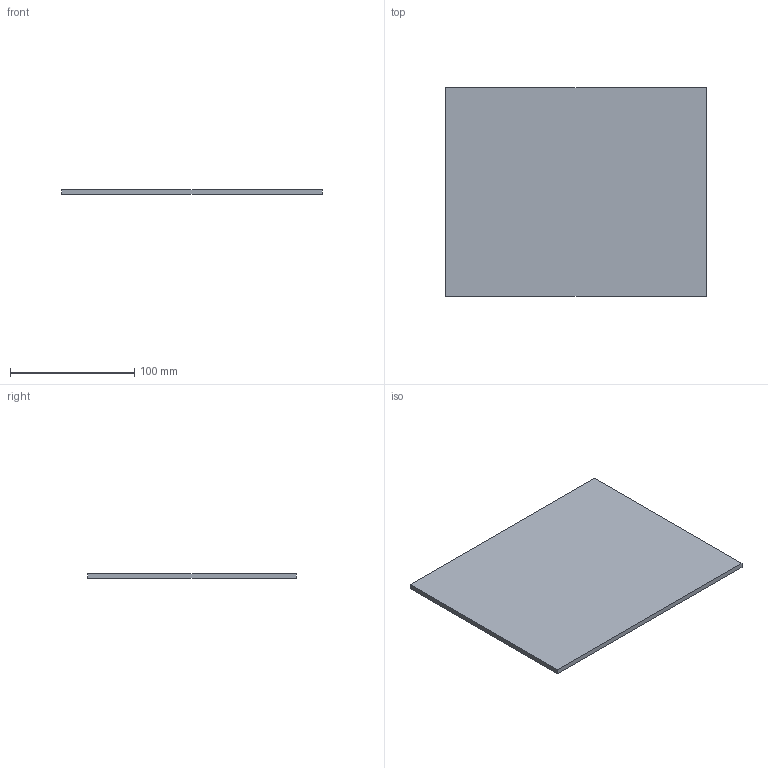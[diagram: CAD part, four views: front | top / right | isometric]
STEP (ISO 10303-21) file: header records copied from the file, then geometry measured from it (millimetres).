
FILE_DESCRIPTION(('Open CASCADE Model'),'2;1');
FILE_NAME('Open CASCADE Shape Model','2026-11-03T16:03:53',('Author'),( 'Open CASCADE'),'Open CASCADE STEP processor 8.0','build123d', 'Unknown');
FILE_SCHEMA(('AUTOMOTIVE_DESIGN { 1 0 10303 214 1 1 1 1 }'));
Length unit declared in the file: millimetre
Products named in the file (1): COMPOUND
Bounding box: 210 x 168 x 4 mm (x, y, z)
Volume: 141120 mm3; surface area: 73584 mm2
Topology: 1 solids, 1 shells, 6 faces, 12 edges, 8 vertices
Faces by surface type: plane 6
Entity records: 322 total; most frequent: CARTESIAN_POINT 51, DIRECTION 50, LINE 36, VECTOR 36, ORIENTED_EDGE 24, PCURVE 24, DEFINITIONAL_REPRESENTATION 24, EDGE_CURVE 12
